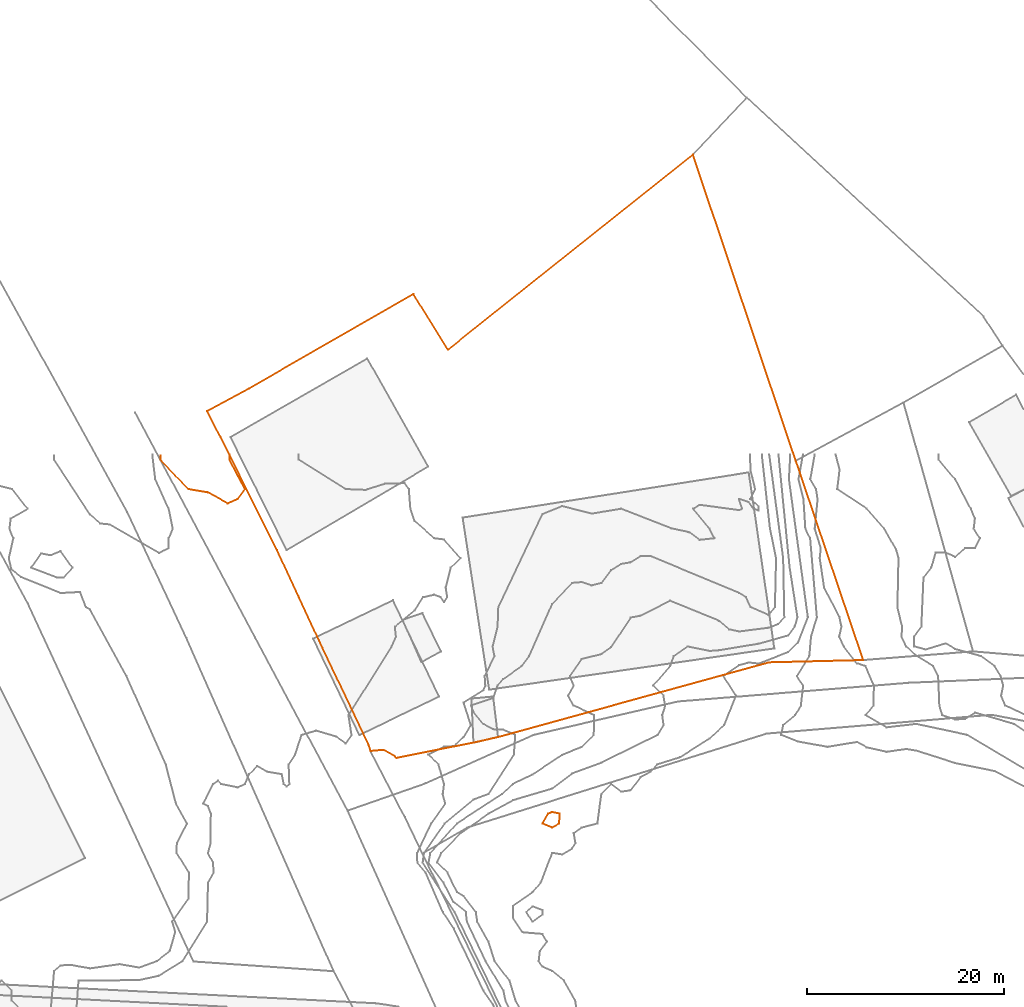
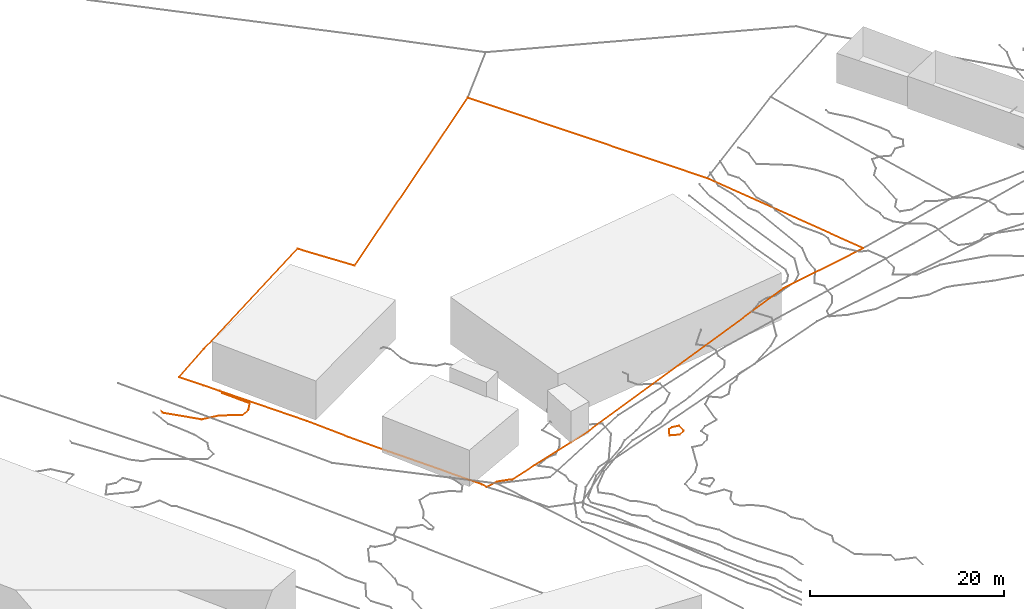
# Not in any storey, part 347 of 419: 3 proxies.
"""IFC2X3 model written with IfcOpenShell, lengths in metres."""

from ifc_helpers import new_model, entity, si_unit, frame, origin_with_axes, place, context, subcontext, project, element, save


model = new_model("IFC2X3")

# Units and contexts
model_context = context("Model", 3, precision=1e-05, world=origin_with_axes())
body_context = subcontext(model_context, "Body", "Model", "MODEL_VIEW")
ifc_project = project(units=[si_unit("AREAUNIT", "SQUARE_METRE"), si_unit("LENGTHUNIT", "METRE")], contexts=[model_context])

# Proxies
proxy_1_placement = place(None, frame((581.0020204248, 1036.837690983, 50.8204989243), z_axis=(0.0, 0.0, 1.0), x_axis=(1.0, 0.0, 0.0)))
element("IfcBuildingElementProxy", 1, at=proxy_1_placement, Name="Cadastre 73", ObjectType="NOTDEFINED", context=body_context, shape_type="GeometricCurveSet", body=[
    entity("IfcGeometricCurveSet", [entity("IfcPolyline", [entity("IfcCartesianPoint", [16.61, -34.5700000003, 1.3538033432]), entity("IfcCartesianPoint", [16.4399999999, -33.96, 1.3616207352]), entity("IfcCartesianPoint", [11.74, -24.1000000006, 0.9092796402]), entity("IfcCartesianPoint", [11.39, -23.3600000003, 0.8523801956]), entity("IfcCartesianPoint", [9.2999999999, -18.8799999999, 0.6573534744]), entity("IfcCartesianPoint", [7.1, -14.1200000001, 0.5543000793]), entity("IfcCartesianPoint", [1.37, -2.6699999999, 0.1075013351]), entity("IfcCartesianPoint", [0.0, 0.0, 0.0]), entity("IfcCartesianPoint", [4.25, 2.2999999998, 0.6153002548]), entity("IfcCartesianPoint", [20.97, 11.9199999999, 1.5667004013]), entity("IfcCartesianPoint", [24.48, 6.2399999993, 1.6618023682]), entity("IfcCartesianPoint", [49.4, 26.0999999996, 1.9981026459]), entity("IfcCartesianPoint", [59.87, -5.0600000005, 7.107221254]), entity("IfcCartesianPoint", [66.73, -25.3300000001, 8.2054459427]), entity("IfcCartesianPoint", [57.14, -25.5600000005, 6.6953823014]), entity("IfcCartesianPoint", [29.59, -33.1600000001, 3.0279008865]), entity("IfcCartesianPoint", [27.11, -33.7200000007, 2.7429564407]), entity("IfcCartesianPoint", [22.29, -34.6699999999, 2.1820408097]), entity("IfcCartesianPoint", [19.25, -35.2700000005, 1.7661205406]), entity("IfcCartesianPoint", [19.11, -35.1200000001, 1.7433405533]), entity("IfcCartesianPoint", [17.95, -34.46, 1.4988126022]), entity("IfcCartesianPoint", [16.61, -34.5700000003, 1.3538033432])])]),
])
proxy_2_placement = place(None, frame((576.2458688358, 1031.8976909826, 51.0), z_axis=(0.0, 0.0, 1.0), x_axis=(1.0, 0.0, 0.0)))
element("IfcBuildingElementProxy", 2, at=proxy_2_placement, Name="Contour 51.0 m", ObjectType="NOTDEFINED", context=body_context, shape_type="GeometricCurveSet", body=[
    entity("IfcGeometricCurveSet", [entity("IfcPolyline", [entity("IfcCartesianPoint", [0.0, 0.5, 0.0]), entity("IfcCartesianPoint", [0.0, 0.0, 0.0]), entity("IfcCartesianPoint", [2.846151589, -2.9999800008, 0.0]), entity("IfcCartesianPoint", [4.846151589, -3.333333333, 0.0]), entity("IfcCartesianPoint", [6.846151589, -4.4545359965, 0.0]), entity("IfcCartesianPoint", [7.846151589, -3.9999888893, 0.0]), entity("IfcCartesianPoint", [8.5961595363, -3.0, 0.0]), entity("IfcCartesianPoint", [7.0247210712, 0.0, 0.0]), entity("IfcCartesianPoint", [7.0247210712, 0.5, 0.0])])]),
])
proxy_3_placement = place(None, frame((615.0920113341, 994.8976909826, 57.0), z_axis=(0.0, 0.0, 1.0), x_axis=(1.0, 0.0, 0.0)))
element("IfcBuildingElementProxy", 3, at=proxy_3_placement, Name="Contour 57.0 m", ObjectType="NOTDEFINED", context=body_context, shape_type="GeometricCurveSet", body=[
    entity("IfcGeometricCurveSet", [entity("IfcPolyline", [entity("IfcCartesianPoint", [1.7142870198, 0.0, 0.0]), entity("IfcCartesianPoint", [1.0000090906, -0.4166640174, 0.0]), entity("IfcCartesianPoint", [0.0, 0.0, 0.0]), entity("IfcCartesianPoint", [0.5714376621, 1.0, 0.0]), entity("IfcCartesianPoint", [1.0000090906, 1.1538484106, 0.0]), entity("IfcCartesianPoint", [1.7500090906, 1.0, 0.0]), entity("IfcCartesianPoint", [1.7142870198, 0.0, 0.0])])]),
])

save(model, "model.ifc")
